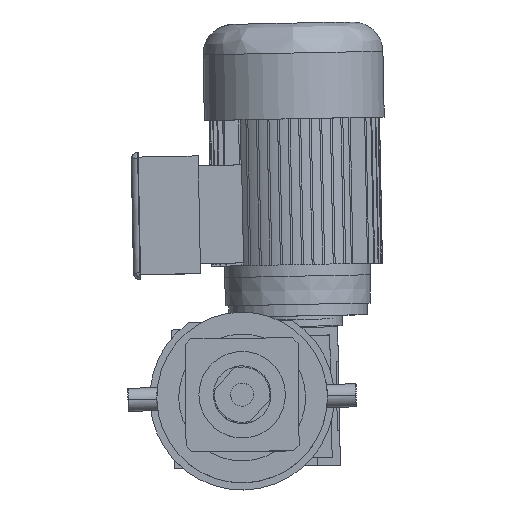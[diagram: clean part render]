
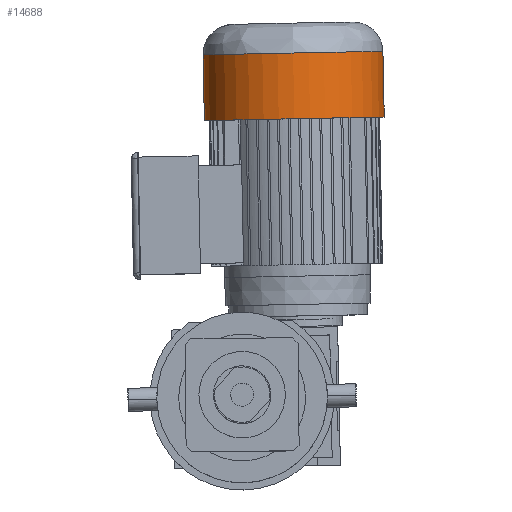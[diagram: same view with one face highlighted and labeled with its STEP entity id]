
A CAD part, top view. The second image highlights one B-rep face of the part: STEP entity #14688.
In plain terms, the highlighted cylindrical face has radius 78 mm (diameter 156 mm), a partial arc.
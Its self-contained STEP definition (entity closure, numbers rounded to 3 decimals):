
#581 = VERTEX_POINT ( 'NONE', #5284 ) ;
#735 = EDGE_LOOP ( 'NONE', ( #24429, #10812, #10521, #11328 ) ) ;
#1708 = AXIS2_PLACEMENT_3D ( 'NONE', #11134, #2482, #22792 ) ;
#1948 = CARTESIAN_POINT ( 'NONE',  ( 0., 0., -183.5 ) ) ;
#2482 = DIRECTION ( 'NONE',  ( 0., 0., -1. ) ) ;
#3371 = VERTEX_POINT ( 'NONE', #29156 ) ;
#3541 = LINE ( 'NONE', #10171, #25692 ) ;
#4178 = CARTESIAN_POINT ( 'NONE',  ( 0., -78., -209.5 ) ) ;
#4855 = DIRECTION ( 'NONE',  ( 0., 1., 0. ) ) ;
#5032 = CIRCLE ( 'NONE', #29169, 78. ) ;
#5267 = CYLINDRICAL_SURFACE ( 'NONE', #1708, 78. ) ;
#5284 = CARTESIAN_POINT ( 'NONE',  ( 0., 78., -183.5 ) ) ;
#5745 = EDGE_CURVE ( 'NONE', #22234, #581, #28213, .T. ) ;
#8861 = DIRECTION ( 'NONE',  ( 0., 0., -1. ) ) ;
#10171 = CARTESIAN_POINT ( 'NONE',  ( 0., 78., -209.5 ) ) ;
#10521 = ORIENTED_EDGE ( 'NONE', *, *, #5745, .T. ) ;
#10812 = ORIENTED_EDGE ( 'NONE', *, *, #21429, .T. ) ;
#11066 = LINE ( 'NONE', #4178, #25579 ) ;
#11134 = CARTESIAN_POINT ( 'NONE',  ( 0., 0., -209.5 ) ) ;
#11328 = ORIENTED_EDGE ( 'NONE', *, *, #26324, .F. ) ;
#14688 = ADVANCED_FACE ( 'NONE', ( #22817 ), #5267, .T. ) ;
#18026 = VERTEX_POINT ( 'NONE', #28196 ) ;
#20090 = EDGE_CURVE ( 'NONE', #18026, #3371, #5032, .T. ) ;
#21429 = EDGE_CURVE ( 'NONE', #3371, #22234, #11066, .T. ) ;
#22127 = DIRECTION ( 'NONE',  ( 0., 0., 1. ) ) ;
#22234 = VERTEX_POINT ( 'NONE', #31948 ) ;
#22578 = AXIS2_PLACEMENT_3D ( 'NONE', #1948, #22127, #4855 ) ;
#22792 = DIRECTION ( 'NONE',  ( 0., 1., 0. ) ) ;
#22817 = FACE_OUTER_BOUND ( 'NONE', #735, .T. ) ;
#24429 = ORIENTED_EDGE ( 'NONE', *, *, #20090, .T. ) ;
#25579 = VECTOR ( 'NONE', #35987, 1000. ) ;
#25692 = VECTOR ( 'NONE', #27526, 1000. ) ;
#26180 = CARTESIAN_POINT ( 'NONE',  ( 0., 0., -126.5 ) ) ;
#26324 = EDGE_CURVE ( 'NONE', #18026, #581, #3541, .T. ) ;
#27526 = DIRECTION ( 'NONE',  ( 0., 0., -1. ) ) ;
#28196 = CARTESIAN_POINT ( 'NONE',  ( 0., 78., -126.5 ) ) ;
#28213 = CIRCLE ( 'NONE', #22578, 78. ) ;
#29047 = DIRECTION ( 'NONE',  ( 0., 1., 0. ) ) ;
#29156 = CARTESIAN_POINT ( 'NONE',  ( 0., -78., -126.5 ) ) ;
#29169 = AXIS2_PLACEMENT_3D ( 'NONE', #26180, #8861, #29047 ) ;
#31948 = CARTESIAN_POINT ( 'NONE',  ( 0., -78., -183.5 ) ) ;
#35987 = DIRECTION ( 'NONE',  ( 0., 0., -1. ) ) ;
